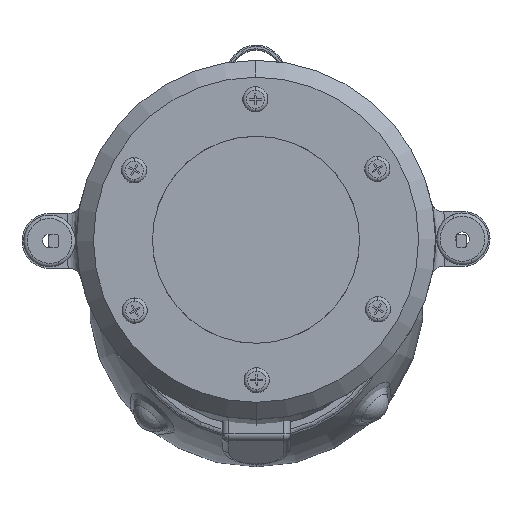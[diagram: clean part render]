
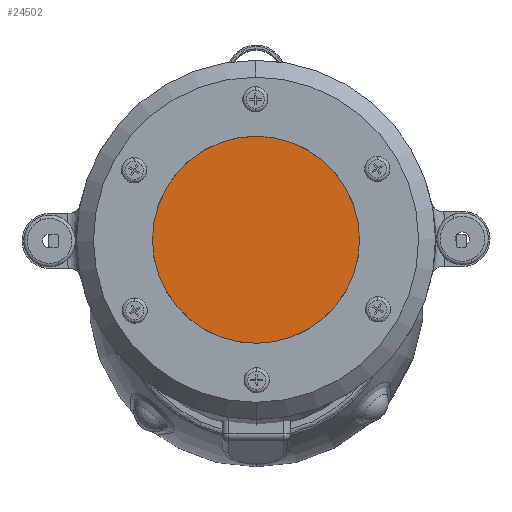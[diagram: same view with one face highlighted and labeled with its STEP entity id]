
A CAD part, top view. The second image highlights one B-rep face of the part: STEP entity #24502.
In plain terms, the highlighted planar face has unit normal (0, 0, 1).
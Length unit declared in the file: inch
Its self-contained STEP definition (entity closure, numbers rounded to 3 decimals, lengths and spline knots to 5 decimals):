
#3732 = CIRCLE ( 'NONE', #38466, 1.5 ) ;
#3999 = EDGE_CURVE ( 'NONE', #31431, #31435, #39576, .T. ) ;
#4018 = EDGE_CURVE ( 'NONE', #31435, #31431, #3732, .T. ) ;
#5700 = DIRECTION ( 'NONE',  ( 1., 0., 0. ) ) ;
#5702 = DIRECTION ( 'NONE',  ( 0., 0., 1. ) ) ;
#5704 = CARTESIAN_POINT ( 'NONE',  ( 0., 0., 0.1 ) ) ;
#5705 = PLANE ( 'NONE',  #19123 ) ;
#15340 = CARTESIAN_POINT ( 'NONE',  ( 1.5, 0., 0.1 ) ) ;
#15344 = CARTESIAN_POINT ( 'NONE',  ( -1.5, 0., 0.1 ) ) ;
#19123 = AXIS2_PLACEMENT_3D ( 'NONE', #5704, #5702, #5700 ) ;
#20115 = CARTESIAN_POINT ( 'NONE',  ( 0., 0., 0.1 ) ) ;
#20122 = DIRECTION ( 'NONE',  ( 0., 0., 1. ) ) ;
#20162 = DIRECTION ( 'NONE',  ( 1., 0., 0. ) ) ;
#21884 = CARTESIAN_POINT ( 'NONE',  ( 0., 0., 0.1 ) ) ;
#21885 = DIRECTION ( 'NONE',  ( 0., 0., 1. ) ) ;
#21886 = DIRECTION ( 'NONE',  ( 1., 0., 0. ) ) ;
#24502 = ADVANCED_FACE ( 'NONE', ( #40166 ), #5705, .T. ) ;
#31431 = VERTEX_POINT ( 'NONE', #15340 ) ;
#31435 = VERTEX_POINT ( 'NONE', #15344 ) ;
#32792 = ORIENTED_EDGE ( 'NONE', *, *, #4018, .T. ) ;
#32794 = ORIENTED_EDGE ( 'NONE', *, *, #3999, .T. ) ;
#32999 = EDGE_LOOP ( 'NONE', ( #32792, #32794 ) ) ;
#38455 = AXIS2_PLACEMENT_3D ( 'NONE', #21884, #21885, #21886 ) ;
#38466 = AXIS2_PLACEMENT_3D ( 'NONE', #20115, #20122, #20162 ) ;
#39576 = CIRCLE ( 'NONE', #38455, 1.5 ) ;
#40166 = FACE_OUTER_BOUND ( 'NONE', #32999, .T. ) ;
